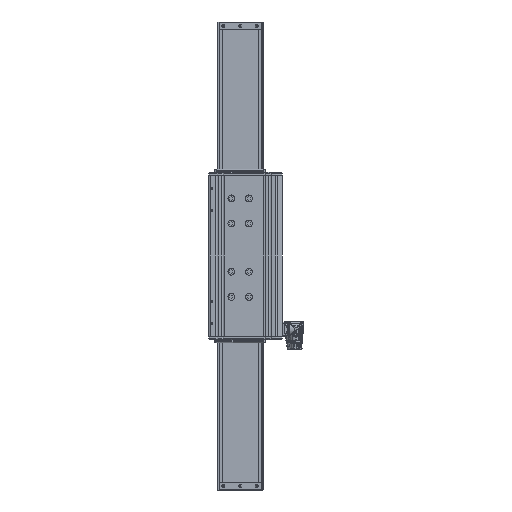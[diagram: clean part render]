
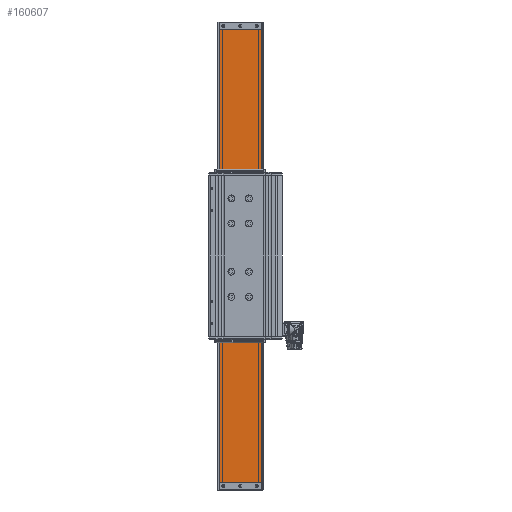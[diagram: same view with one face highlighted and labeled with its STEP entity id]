
A CAD part, front view. The second image highlights one B-rep face of the part: STEP entity #160607.
In plain terms, the highlighted planar face has unit normal (0, -1, 0) as drawn and (0, 1, 0) by its records, which use the part's own axes.
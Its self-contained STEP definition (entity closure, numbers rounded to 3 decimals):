
#3787 = EDGE_CURVE ( 'NONE', #43851, #43850, #93175, .T. ) ;
#3801 = EDGE_CURVE ( 'NONE', #43855, #43851, #93233, .T. ) ;
#3802 = EDGE_CURVE ( 'NONE', #43850, #43853, #93238, .T. ) ;
#3803 = EDGE_CURVE ( 'NONE', #43853, #43855, #93242, .T. ) ;
#15085 = EDGE_LOOP ( 'NONE', ( #30913, #30915, #30917, #30919 ) ) ;
#30913 = ORIENTED_EDGE ( 'NONE', *, *, #3787, .T. ) ;
#30915 = ORIENTED_EDGE ( 'NONE', *, *, #3802, .T. ) ;
#30917 = ORIENTED_EDGE ( 'NONE', *, *, #3803, .T. ) ;
#30919 = ORIENTED_EDGE ( 'NONE', *, *, #3801, .T. ) ;
#43850 = VERTEX_POINT ( 'NONE', #193626 ) ;
#43851 = VERTEX_POINT ( 'NONE', #193628 ) ;
#43853 = VERTEX_POINT ( 'NONE', #193632 ) ;
#43855 = VERTEX_POINT ( 'NONE', #193636 ) ;
#71682 = CARTESIAN_POINT ( 'NONE',  ( -42., 26.152, -450. ) ) ;
#71683 = DIRECTION ( 'NONE',  ( 0., 0., 1. ) ) ;
#71710 = CARTESIAN_POINT ( 'NONE',  ( -42., 26.152, -450. ) ) ;
#71711 = DIRECTION ( 'NONE',  ( -1., 0., 0. ) ) ;
#71712 = CARTESIAN_POINT ( 'NONE',  ( -42., 26.152, 450. ) ) ;
#71713 = DIRECTION ( 'NONE',  ( 1., 0., 0. ) ) ;
#71714 = CARTESIAN_POINT ( 'NONE',  ( 42., 26.152, -450. ) ) ;
#71715 = DIRECTION ( 'NONE',  ( 0., 0., -1. ) ) ;
#93175 = LINE ( 'NONE', #71682, #93176 ) ;
#93176 = VECTOR ( 'NONE', #71683, 1000. ) ;
#93233 = LINE ( 'NONE', #71710, #93235 ) ;
#93235 = VECTOR ( 'NONE', #71711, 1000. ) ;
#93238 = LINE ( 'NONE', #71712, #93240 ) ;
#93240 = VECTOR ( 'NONE', #71713, 1000. ) ;
#93242 = LINE ( 'NONE', #71714, #93244 ) ;
#93244 = VECTOR ( 'NONE', #71715, 1000. ) ;
#112613 = FACE_OUTER_BOUND ( 'NONE', #15085, .T. ) ;
#125035 = CARTESIAN_POINT ( 'NONE',  ( -42., 26.152, 450. ) ) ;
#125040 = PLANE ( 'NONE',  #126319 ) ;
#125045 = DIRECTION ( 'NONE',  ( 0., 1., 0. ) ) ;
#125046 = DIRECTION ( 'NONE',  ( 0., 0., 1. ) ) ;
#126319 = AXIS2_PLACEMENT_3D ( 'NONE', #125035, #125045, #125046 ) ;
#160607 = ADVANCED_FACE ( 'NONE', ( #112613 ), #125040, .T. ) ;
#193626 = CARTESIAN_POINT ( 'NONE',  ( -42., 26.152, 450. ) ) ;
#193628 = CARTESIAN_POINT ( 'NONE',  ( -42., 26.152, -450. ) ) ;
#193632 = CARTESIAN_POINT ( 'NONE',  ( 42., 26.152, 450. ) ) ;
#193636 = CARTESIAN_POINT ( 'NONE',  ( 42., 26.152, -450. ) ) ;
